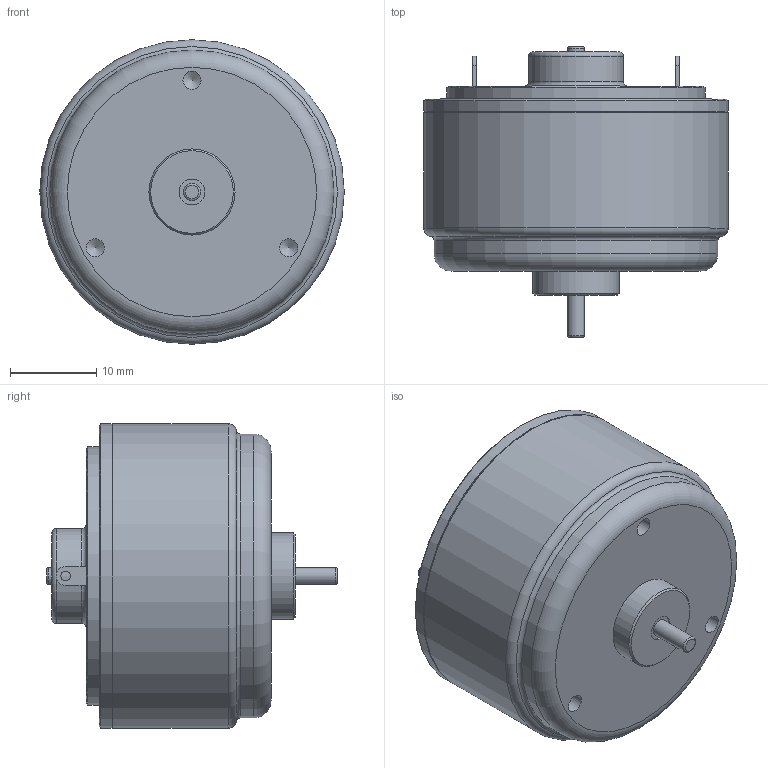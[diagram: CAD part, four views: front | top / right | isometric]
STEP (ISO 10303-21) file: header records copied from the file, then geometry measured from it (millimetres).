
FILE_DESCRIPTION(/* description */ (''),/* implementation_level */ '2;1');
FILE_NAME(/* name */ 'TP-3522NA.stp',/* time_stamp */ '2024-06-07T13:26:18+09:00',/* author */ ('user'),/* organization */ (''),/* preprocessor_version */ 'ST-DEVELOPER v20',/* originating_system */ 'Autodesk Inventor 2024',/* authorisation */ '');
FILE_SCHEMA (('AUTOMOTIVE_DESIGN { 1 0 10303 214 3 1 1 }'));
Length unit declared in the file: millimetre
Products named in the file (1): TP-3522NA
Bounding box: 35.4 x 33.8 x 35.4 mm (x, y, z)
Volume: 20653.1 mm3; surface area: 4563.2 mm2
Topology: 1 solids, 1 shells, 54 faces, 112 edges, 73 vertices
Faces by surface type: plane 21, cylinder 20, torus 7, cone 6
Full cylindrical faces by diameter (mm): 1.1 x2, 2 x2, 2.113 x3, 2.4 x2, 3 x1, 5 x1, 10 x1, 11 x1, 30 x1, 33 x1, 35.2 x1, 35.4 x2
Entity records: 1548 total; most frequent: DIRECTION 284, CARTESIAN_POINT 237, ORIENTED_EDGE 218, AXIS2_PLACEMENT_3D 120, EDGE_CURVE 109, EDGE_LOOP 74, VERTEX_POINT 73, CIRCLE 65
